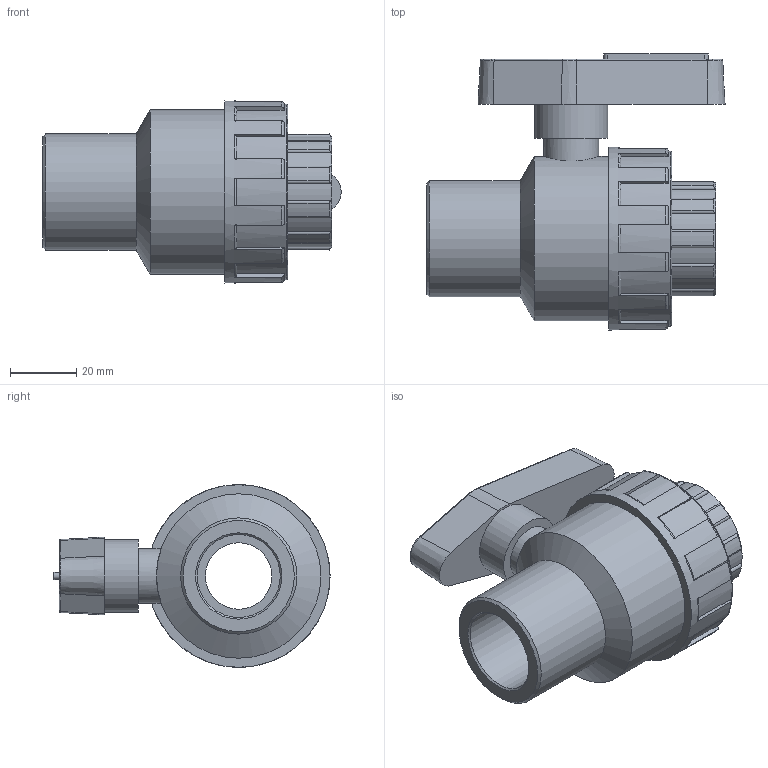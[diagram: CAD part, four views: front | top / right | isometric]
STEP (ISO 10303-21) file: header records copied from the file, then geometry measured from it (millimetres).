
FILE_DESCRIPTION(/* description */ ('PLASSON 1/NUT VALVE CEM. PVC 25'),/* implementation_level */ '2;1');
FILE_NAME(/* name */ 'C:\Dropbox\KIMPROJECTS-Inventor\99-16-3568-Processing\PVC Catalog 2017\113500\11350025.ipt.stp',/* time_stamp */ '2017-12-07T16:11:44+02:00',/* author */ ('KIM'),/* organization */ (''),/* preprocessor_version */ 'ST-DEVELOPER v15.6',/* originating_system */ 'Autodesk Inventor 2015',/* authorisation */ '');
FILE_SCHEMA (('AUTOMOTIVE_DESIGN { 1 0 10303 214 3 1 1 }'));
Length unit declared in the file: millimetre
Products named in the file (1): 11350025
Bounding box: 89.79 x 83.12 x 55 mm (x, y, z)
Volume: 118925.4 mm3; surface area: 27159.9 mm2
Topology: 1 solids, 1 shells, 166 faces, 439 edges, 282 vertices
Faces by surface type: plane 64, cylinder 55, torus 29, cone 18
Full cylindrical faces by diameter (mm): 16.5 x1, 20 x1, 22 x1, 25 x2, 35 x1, 49.5 x1, 52.8 x1, 55 x1
Entity records: 5618 total; most frequent: CARTESIAN_POINT 1546, DIRECTION 868, ORIENTED_EDGE 836, EDGE_CURVE 418, AXIS2_PLACEMENT_3D 352, VERTEX_POINT 276, EDGE_LOOP 190, CIRCLE 185
